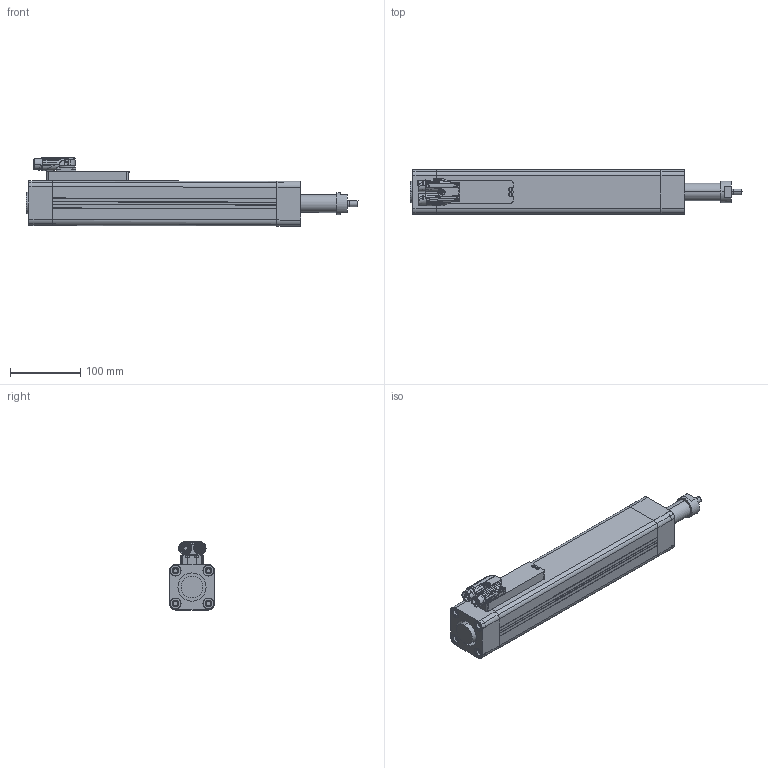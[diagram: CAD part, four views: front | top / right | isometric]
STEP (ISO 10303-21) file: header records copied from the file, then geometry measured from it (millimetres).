
FILE_DESCRIPTION(('STEP AP214'),'1');
FILE_NAME('C:/Users/Autocad/Desktop/ETT50S0360.stp','2013-10-22T15:13:26',(' '),(' '),'Spatial InterOp 3D',' ',' ');
FILE_SCHEMA(('automotive_design'));
Length unit declared in the file: millimetre
Products named in the file (26): ETT50S0360; ETH050 3.1; TAPPO NORMALE; TAPPO; Scatola; Vite M3 lunga; Connettore a y a blocchi; Pin; Vite; Pallino verde; Pallino arancione; Frutto verde; Frutto arancione; Corpo connettore; Vite M3scheda -tappo; cuscinetto; viti parker; Slider FINTO maschio; riempitivo
Assembly tree (35 placements, depth 3):
  ETT50S0360
    ETH050 3.1
    TAPPO NORMALE
    TAPPO
    Scatola
    Vite M3 lunga  x4
    Connettore a y a blocchi
      Pin
      Vite
      Pallino verde
      Pallino arancione
      Frutto verde
      Frutto arancione
      Corpo connettore
    Vite M3scheda -tappo  x4
    cuscinetto  x2
    viti parker
    viti parker
    viti parker
    viti parker
    viti parker
    viti parker
    viti parker
    viti parker
    Slider FINTO maschio
    riempitivo  x4
Bounding box: 471.04 x 63.5 x 97.6 mm (x, y, z)
Volume: 1248299.6 mm3; surface area: 362291.1 mm2
Topology: 27 solids, 1870 shells, 2477 faces, 10216 edges, 9646 vertices
Faces by surface type: cylinder 1023, plane 694, bspline 288, torus 262, cone 95, extrusion 68, sphere 47
Entity records: 161337 total; most frequent: CARTESIAN_POINT 59985, DIRECTION 14438, ORIENTED_EDGE 10199, EDGE_CURVE 9318, VERTEX_POINT 9026, AXIS2_PLACEMENT_3D 5526, STYLED_ITEM 3499, PRESENTATION_STYLE_ASSIGNMENT 3499
